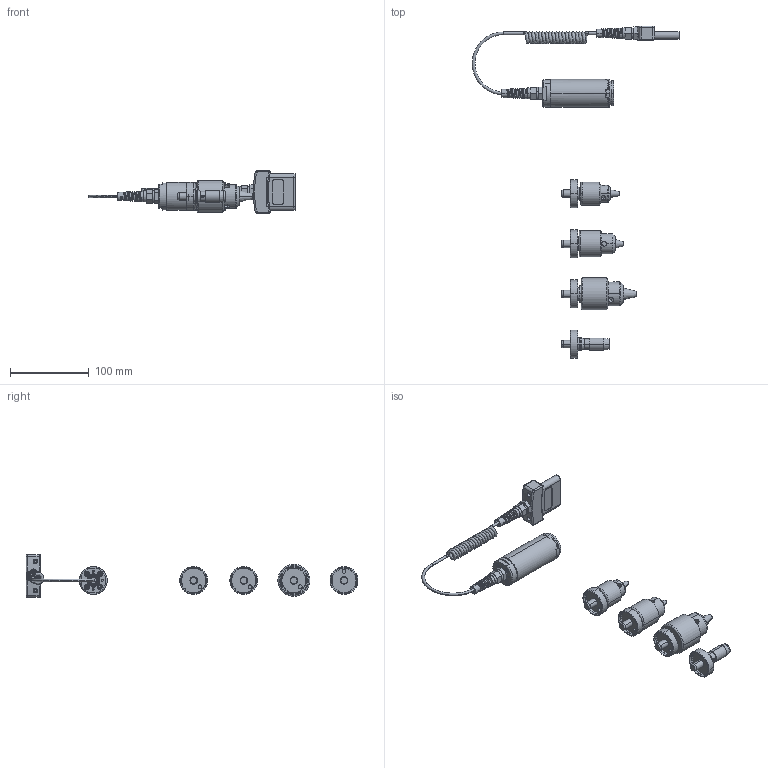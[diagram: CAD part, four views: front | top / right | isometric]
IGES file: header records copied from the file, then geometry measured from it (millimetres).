
Global section: file name: No Iges File Name specified; native system: Autodesk Inventor 2010; preprocessor: AutoDesk Inventor Iges Exporter R2010; author: mlampen; date: 20170620.165954; units: inch
Bounding box: 262.98 x 420.5 x 54.02 mm (x, y, z)
Volume: 279462.4 mm3; surface area: 84194.6 mm2
Topology: 13 solids, 13 shells, 1118 faces, 2630 edges, 1650 vertices
Faces by surface type: plane 354, revolution 255, cylinder 171, bspline 152, cone 126, torus 56, sphere 4
Full cylindrical faces by diameter (mm): 2.02 x14, 2.845 x13
